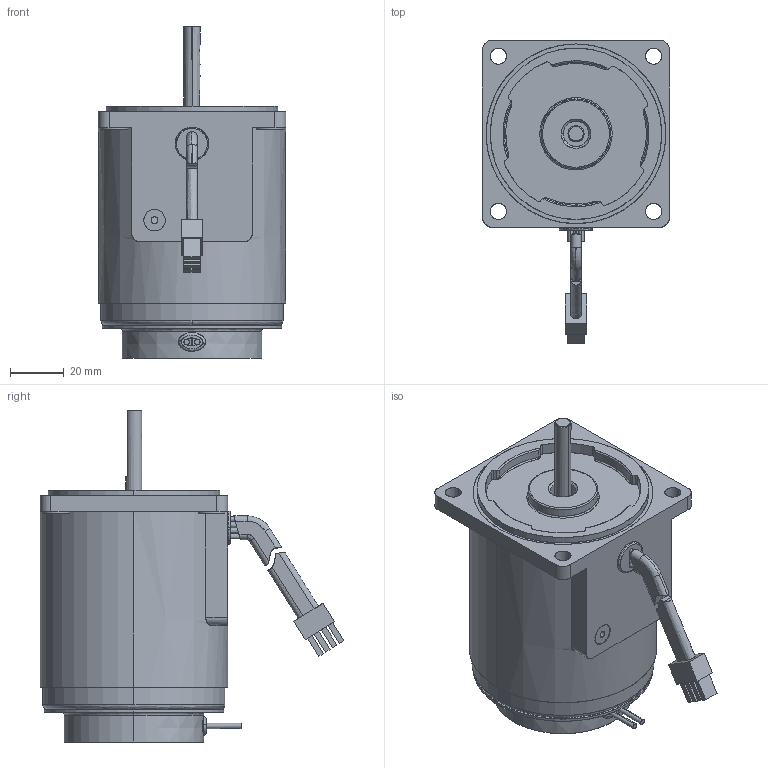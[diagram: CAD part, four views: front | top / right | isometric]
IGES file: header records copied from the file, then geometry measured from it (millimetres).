
Start section: SolidWorks IGES file using analytic representation for surfaces
Global section: file name: \\楷备家烹钦辑滚\data (D)\档搁 枚\权其捞瘤 档搁\7. SPEED INDUCTION\70\15W\(7-13) 7SDD∴-15.IGS; native system: SolidWorks 2007; preprocessor: SolidWorks 2007; author: user; date: 150702.113959; units: millimetre
Bounding box: 70 x 113.4 x 124 mm (x, y, z)
Surface area: 72073.4 mm2 (no closed solid volume)
Topology: 0 solids, 0 shells, 307 faces, 5402 edges, 5402 vertices
Faces by surface type: bspline 185, revolution 122
